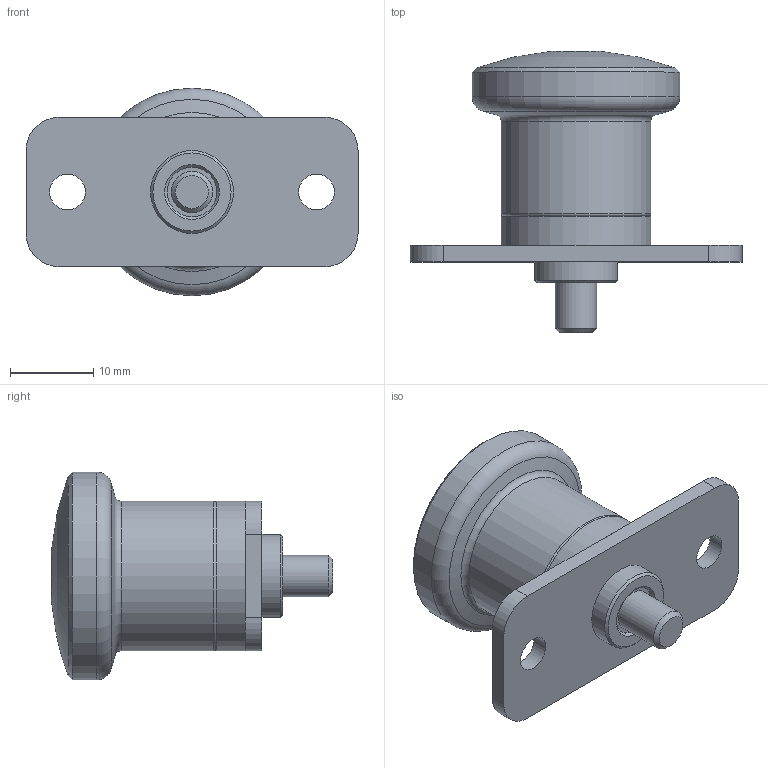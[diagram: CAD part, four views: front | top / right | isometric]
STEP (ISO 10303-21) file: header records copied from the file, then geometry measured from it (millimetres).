
FILE_DESCRIPTION( ( 'STEP AP203' ), '1' );
FILE_NAME( 'C:/Temp/Ganter_Step_05_03_2020/data/3_1/gn822_9/gn822_9_b/Stainless Steel-Mini indexing plunger GN 822.9-5-6-B (deactivated).stp', '2020-03-12T09:24:27', ( 'License CC BY-ND 4.0' ), ( 'CADENAS' ), ' ', 'PARTsolutions', ' ' );
FILE_SCHEMA( ( 'CONFIG_CONTROL_DESIGN' ) );
Length unit declared in the file: millimetre
Products named in the file (3): Stainless Steel-Mini indexing plunger GN 822.9-5-6-B (deactivated); _Stainless Steel-Mini indexing plunger GN 822.9-5-6-B (deactivated)_1; _Stainless Steel-Mini indexing plunger GN 822.9-5-6-B (unbetaetigt)_2
Assembly tree (2 placements, depth 2):
  Stainless Steel-Mini indexing plunger GN 822.9-5-6-B (deactivated)
    _Stainless Steel-Mini indexing plunger GN 822.9-5-6-B (deactivated)_1
    _Stainless Steel-Mini indexing plunger GN 822.9-5-6-B (unbetaetigt)_2
Bounding box: 40 x 33.87 x 25 mm (x, y, z)
Volume: 8610.3 mm3; surface area: 6222 mm2
Topology: 2 solids, 2 shells, 56 faces, 122 edges, 77 vertices
Faces by surface type: plane 29, cylinder 15, cone 8, torus 3, sphere 1
Full cylindrical faces by diameter (mm): 4 x1, 4.2 x1, 4.3 x2, 5 x1, 6 x2, 10 x1, 18 x2, 25 x1
Entity records: 1626 total; most frequent: CARTESIAN_POINT 377, DIRECTION 244, ORIENTED_EDGE 192, AXIS2_PLACEMENT_3D 101, EDGE_CURVE 96, EDGE_LOOP 92, VERTEX_POINT 74, FACE_OUTER_BOUND 71
